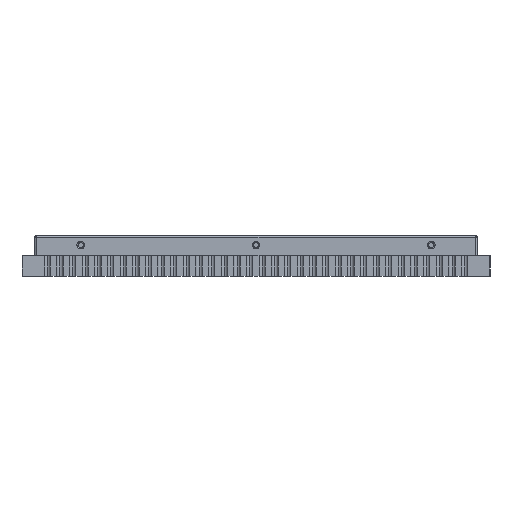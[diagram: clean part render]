
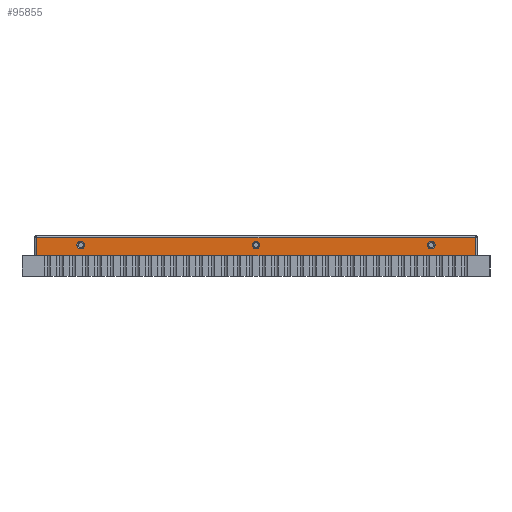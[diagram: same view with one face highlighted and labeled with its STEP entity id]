
A CAD part, front view. The second image highlights one B-rep face of the part: STEP entity #95855.
In plain terms, the highlighted planar face has unit normal (0, -1, 0).
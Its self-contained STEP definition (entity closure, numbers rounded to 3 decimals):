
#225 = DIRECTION ( 'NONE',  ( -1., 0., 0. ) ) ;
#1225 = EDGE_LOOP ( 'NONE', ( #5821, #32307 ) ) ;
#1550 = VERTEX_POINT ( 'NONE', #37632 ) ;
#3447 = CARTESIAN_POINT ( 'NONE',  ( 109.675, 201.063, 1.6 ) ) ;
#3743 = CARTESIAN_POINT ( 'NONE',  ( 140.585, 201.063, 0.75 ) ) ;
#4924 = ORIENTED_EDGE ( 'NONE', *, *, #38912, .T. ) ;
#5066 = FACE_BOUND ( 'NONE', #20918, .T. ) ;
#5821 = ORIENTED_EDGE ( 'NONE', *, *, #99333, .T. ) ;
#9503 = AXIS2_PLACEMENT_3D ( 'NONE', #18539, #76456, #225 ) ;
#9652 = DIRECTION ( 'NONE',  ( -1., 0., 0. ) ) ;
#11401 = LINE ( 'NONE', #79329, #22011 ) ;
#11809 = CARTESIAN_POINT ( 'NONE',  ( 109.675, 201.063, 1.6 ) ) ;
#11936 = DIRECTION ( 'NONE',  ( -1., 0., 0. ) ) ;
#11939 = ORIENTED_EDGE ( 'NONE', *, *, #101967, .F. ) ;
#14425 = AXIS2_PLACEMENT_3D ( 'NONE', #34134, #41904, #100933 ) ;
#18539 = CARTESIAN_POINT ( 'NONE',  ( 127.025, 201.063, 0.75 ) ) ;
#19553 = CARTESIAN_POINT ( 'NONE',  ( 144.375, 201.063, 1.6 ) ) ;
#19879 = ORIENTED_EDGE ( 'NONE', *, *, #52491, .T. ) ;
#20918 = EDGE_LOOP ( 'NONE', ( #90477, #51868 ) ) ;
#22011 = VECTOR ( 'NONE', #88229, 1000. ) ;
#23210 = VECTOR ( 'NONE', #100457, 1000. ) ;
#24349 = ORIENTED_EDGE ( 'NONE', *, *, #88667, .T. ) ;
#26825 = LINE ( 'NONE', #19553, #23210 ) ;
#28559 = CIRCLE ( 'NONE', #56907, 0.3 ) ;
#29380 = CARTESIAN_POINT ( 'NONE',  ( 141.185, 201.063, 0.75 ) ) ;
#30180 = LINE ( 'NONE', #3447, #75181 ) ;
#30208 = CARTESIAN_POINT ( 'NONE',  ( 140.885, 201.063, 0.75 ) ) ;
#30501 = ORIENTED_EDGE ( 'NONE', *, *, #53758, .F. ) ;
#30699 = DIRECTION ( 'NONE',  ( 0., 0., -1. ) ) ;
#32307 = ORIENTED_EDGE ( 'NONE', *, *, #88946, .T. ) ;
#33061 = CARTESIAN_POINT ( 'NONE',  ( 112.865, 201.063, 0.75 ) ) ;
#33245 = VERTEX_POINT ( 'NONE', #51139 ) ;
#34134 = CARTESIAN_POINT ( 'NONE',  ( 113.165, 201.063, 0.75 ) ) ;
#37590 = CIRCLE ( 'NONE', #99842, 0.3 ) ;
#37632 = CARTESIAN_POINT ( 'NONE',  ( 144.375, 201.063, 1.6 ) ) ;
#37959 = CIRCLE ( 'NONE', #9503, 0.3 ) ;
#38912 = EDGE_CURVE ( 'NONE', #82713, #45045, #28559, .T. ) ;
#39095 = VERTEX_POINT ( 'NONE', #86851 ) ;
#39205 = LINE ( 'NONE', #80422, #77677 ) ;
#40163 = DIRECTION ( 'NONE',  ( 1., 0., 0. ) ) ;
#41904 = DIRECTION ( 'NONE',  ( 0., 1., 0. ) ) ;
#42209 = CARTESIAN_POINT ( 'NONE',  ( 144.375, 201.063, 0.15 ) ) ;
#45045 = VERTEX_POINT ( 'NONE', #3743 ) ;
#46913 = ORIENTED_EDGE ( 'NONE', *, *, #93022, .F. ) ;
#47348 = FACE_OUTER_BOUND ( 'NONE', #80318, .T. ) ;
#51139 = CARTESIAN_POINT ( 'NONE',  ( 109.675, 201.063, 0.15 ) ) ;
#51841 = DIRECTION ( 'NONE',  ( 0., 1., 0. ) ) ;
#51868 = ORIENTED_EDGE ( 'NONE', *, *, #95820, .T. ) ;
#52491 = EDGE_CURVE ( 'NONE', #45045, #82713, #62048, .T. ) ;
#53758 = EDGE_CURVE ( 'NONE', #1550, #89509, #26825, .T. ) ;
#54920 = AXIS2_PLACEMENT_3D ( 'NONE', #68124, #102107, #9652 ) ;
#55711 = FACE_BOUND ( 'NONE', #1225, .T. ) ;
#56478 = DIRECTION ( 'NONE',  ( 1., 0., 0. ) ) ;
#56907 = AXIS2_PLACEMENT_3D ( 'NONE', #30208, #72466, #40163 ) ;
#62048 = CIRCLE ( 'NONE', #54920, 0.3 ) ;
#63497 = DIRECTION ( 'NONE',  ( 0., -1., 0. ) ) ;
#64129 = CARTESIAN_POINT ( 'NONE',  ( 113.465, 201.063, 0.75 ) ) ;
#68124 = CARTESIAN_POINT ( 'NONE',  ( 140.885, 201.063, 0.75 ) ) ;
#70209 = VERTEX_POINT ( 'NONE', #11809 ) ;
#70746 = DIRECTION ( 'NONE',  ( 0., 1., 0. ) ) ;
#71850 = PLANE ( 'NONE',  #90319 ) ;
#72466 = DIRECTION ( 'NONE',  ( 0., 1., 0. ) ) ;
#75181 = VECTOR ( 'NONE', #80785, 1000. ) ;
#76456 = DIRECTION ( 'NONE',  ( 0., 1., 0. ) ) ;
#77677 = VECTOR ( 'NONE', #11936, 1000. ) ;
#77841 = EDGE_CURVE ( 'NONE', #88063, #88985, #103329, .T. ) ;
#79329 = CARTESIAN_POINT ( 'NONE',  ( 109.675, 201.063, 1.6 ) ) ;
#80318 = EDGE_LOOP ( 'NONE', ( #46913, #30501, #11939, #24349 ) ) ;
#80422 = CARTESIAN_POINT ( 'NONE',  ( 144.375, 201.063, 0.15 ) ) ;
#80785 = DIRECTION ( 'NONE',  ( 1., 0., 0. ) ) ;
#82398 = FACE_BOUND ( 'NONE', #106250, .T. ) ;
#82713 = VERTEX_POINT ( 'NONE', #29380 ) ;
#84942 = AXIS2_PLACEMENT_3D ( 'NONE', #103127, #70746, #95838 ) ;
#86700 = CARTESIAN_POINT ( 'NONE',  ( 126.725, 201.063, 0.75 ) ) ;
#86851 = CARTESIAN_POINT ( 'NONE',  ( 127.325, 201.063, 0.75 ) ) ;
#88063 = VERTEX_POINT ( 'NONE', #64129 ) ;
#88229 = DIRECTION ( 'NONE',  ( 0., 0., -1. ) ) ;
#88667 = EDGE_CURVE ( 'NONE', #70209, #33245, #11401, .T. ) ;
#88946 = EDGE_CURVE ( 'NONE', #98024, #39095, #37959, .T. ) ;
#88985 = VERTEX_POINT ( 'NONE', #33061 ) ;
#89509 = VERTEX_POINT ( 'NONE', #42209 ) ;
#90319 = AXIS2_PLACEMENT_3D ( 'NONE', #105857, #63497, #30699 ) ;
#90477 = ORIENTED_EDGE ( 'NONE', *, *, #77841, .T. ) ;
#93022 = EDGE_CURVE ( 'NONE', #89509, #33245, #39205, .T. ) ;
#94142 = CARTESIAN_POINT ( 'NONE',  ( 127.025, 201.063, 0.75 ) ) ;
#95820 = EDGE_CURVE ( 'NONE', #88985, #88063, #100955, .T. ) ;
#95838 = DIRECTION ( 'NONE',  ( -1., 0., 0. ) ) ;
#95855 = ADVANCED_FACE ( 'NONE', ( #5066, #55711, #82398, #47348 ), #71850, .T. ) ;
#98024 = VERTEX_POINT ( 'NONE', #86700 ) ;
#99333 = EDGE_CURVE ( 'NONE', #39095, #98024, #37590, .T. ) ;
#99842 = AXIS2_PLACEMENT_3D ( 'NONE', #94142, #51841, #56478 ) ;
#100457 = DIRECTION ( 'NONE',  ( 0., 0., -1. ) ) ;
#100933 = DIRECTION ( 'NONE',  ( 1., 0., 0. ) ) ;
#100955 = CIRCLE ( 'NONE', #84942, 0.3 ) ;
#101967 = EDGE_CURVE ( 'NONE', #70209, #1550, #30180, .T. ) ;
#102107 = DIRECTION ( 'NONE',  ( 0., 1., 0. ) ) ;
#103127 = CARTESIAN_POINT ( 'NONE',  ( 113.165, 201.063, 0.75 ) ) ;
#103329 = CIRCLE ( 'NONE', #14425, 0.3 ) ;
#105857 = CARTESIAN_POINT ( 'NONE',  ( 109.525, 201.063, 0. ) ) ;
#106250 = EDGE_LOOP ( 'NONE', ( #4924, #19879 ) ) ;
